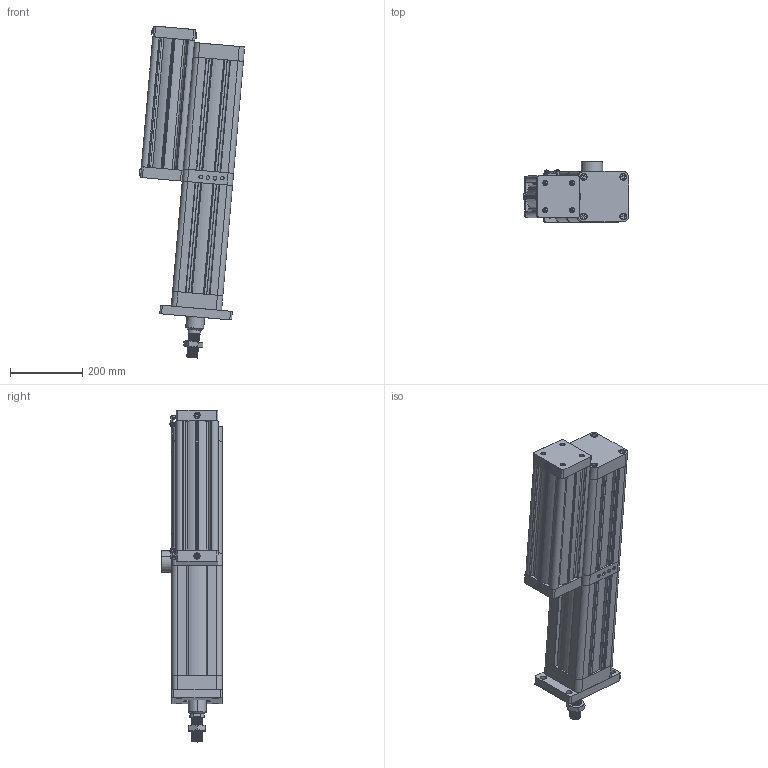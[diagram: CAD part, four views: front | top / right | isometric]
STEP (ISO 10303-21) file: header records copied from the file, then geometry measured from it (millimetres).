
FILE_DESCRIPTION(('CATIA V5 STEP Exchange'),'2;1');
FILE_NAME('D:\7-PHP\PHP CYLINDER\cad\master file\125\Stroke\PHP125.200.20\Ass\PHP-125-200-20.stp','2020-09-16T06:02:38+00:00',('none'),('none'),'CATIA Version 5-6 Release 2016','CATIA V5 STEP AP203','none');
FILE_SCHEMA(('CONFIG_CONTROL_DESIGN'));
Products named in the file (2): PHP-125; prssure
Assembly tree (39 placements, depth 3):
  PHP-125
    #57
    #689
    #996
    #4193
    #4840
    #8037
    #8613
    #9204
    #12660
    prssure
      #13457
      #13769
      #13873
      #132879
      #249869
      #249892
      #250254
      #250358
      #250533
      #250903
      #251796
    #252702
    #252806
    #253684
    #254562
    #255440
    #256318
    #267724
    #268638
    #269552
    #270466
    #271380
    #272184  x3
    #272701  x2
    #272883  x2
Bounding box: 292.06 x 168 x 921.38 mm (x, y, z)
Volume: 6933168.1 mm3; surface area: 1787959.9 mm2
Topology: 89 solids, 89 shells, 8578 faces, 24680 edges, 16350 vertices
Faces by surface type: plane 7512, cylinder 696, bspline 212, cone 112, torus 46
Entity records: 275381 total; most frequent: CARTESIAN_POINT 56329, ORIENTED_EDGE 48852, DIRECTION 39268, EDGE_CURVE 24426, VECTOR 22285, LINE 22285, VERTEX_POINT 16200, AXIS2_PLACEMENT_3D 9175
